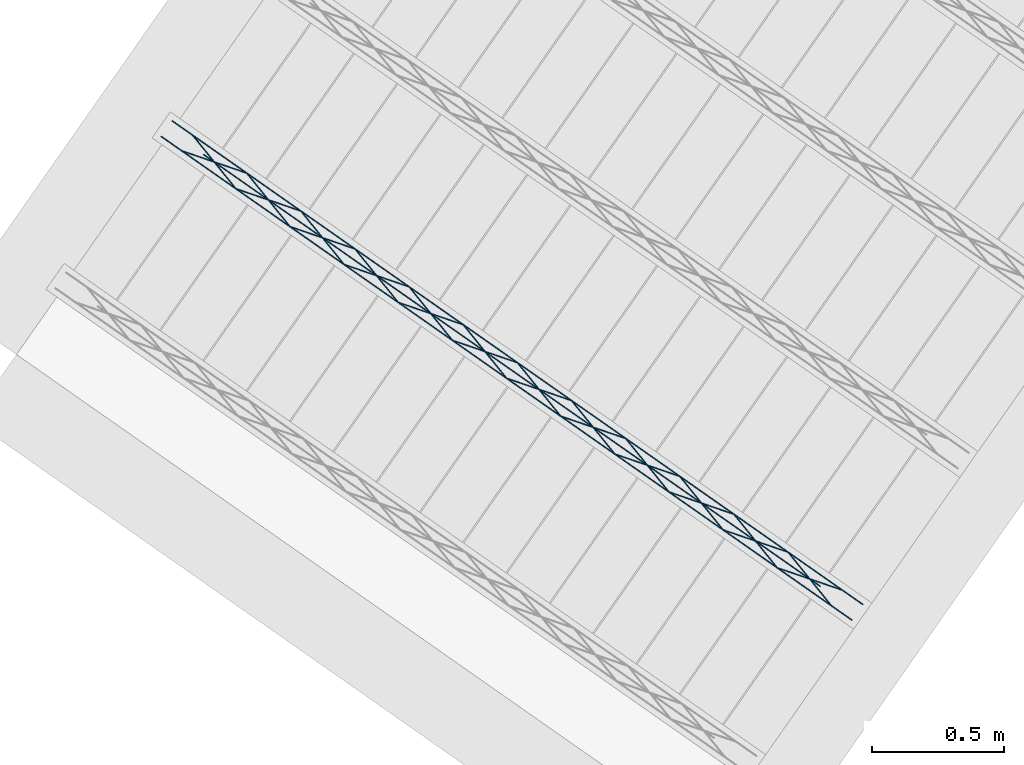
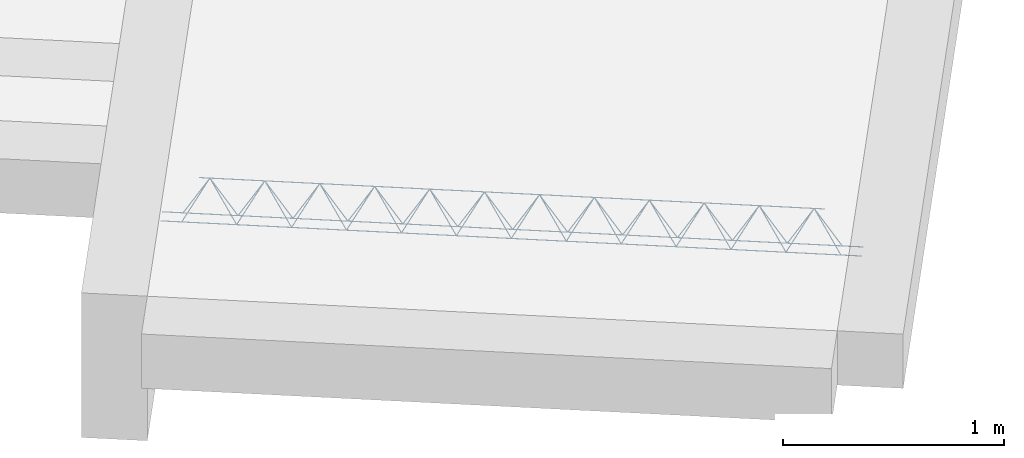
# One storey, part 3 of 46: 1 member.
"""IFC2X3 building model written with IfcOpenShell, lengths in metres."""

from ifc_helpers import new_model, entity, si_unit, converted_unit, derived_unit, direction, frame, origin, origin_2d_with_axis, place, context, subcontext, project, spatial, circle, extrude, type_object, element, save


model = new_model("IFC2X3")

# Units and contexts
model_context = context("Model", 3, precision=1e-05, world=origin(), true_north=direction((6.123031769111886e-17, 1.0)))
body_context = subcontext(model_context, "Body", "Model", "MODEL_VIEW")
ifc_project = project(units=[si_unit("LENGTHUNIT", "METRE"), si_unit("AREAUNIT", "SQUARE_METRE"), si_unit("VOLUMEUNIT", "CUBIC_METRE"), converted_unit("PLANEANGLEUNIT", "DEGREE", entity("IfcPlaneAngleMeasure", 0.017453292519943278), si_unit("PLANEANGLEUNIT", "RADIAN"), dimensions=[0, 0, 0, 0, 0, 0, 0]), si_unit("MASSUNIT", "GRAM", prefix="KILO"), derived_unit("MASSDENSITYUNIT", [(si_unit("MASSUNIT", "GRAM", prefix="KILO"), 1), (si_unit("LENGTHUNIT", "METRE"), -3)]), derived_unit("IONCONCENTRATIONUNIT", [(si_unit("MASSUNIT", "GRAM", prefix="KILO"), 1), (si_unit("LENGTHUNIT", "METRE"), -3)]), derived_unit("MOMENTOFINERTIAUNIT", [(si_unit("LENGTHUNIT", "METRE"), 4)]), si_unit("TIMEUNIT", "SECOND"), si_unit("FREQUENCYUNIT", "HERTZ"), si_unit("THERMODYNAMICTEMPERATUREUNIT", "DEGREE_CELSIUS"), derived_unit("THERMALTRANSMITTANCEUNIT", [(si_unit("MASSUNIT", "GRAM", prefix="KILO"), 1), (si_unit("THERMODYNAMICTEMPERATUREUNIT", "KELVIN"), -1), (si_unit("TIMEUNIT", "SECOND"), -3)]), derived_unit("THERMALCONDUCTANCEUNIT", [(si_unit("MASSUNIT", "GRAM", prefix="KILO"), 1), (si_unit("THERMODYNAMICTEMPERATUREUNIT", "KELVIN"), -1), (si_unit("TIMEUNIT", "SECOND"), -3), (si_unit("LENGTHUNIT", "METRE"), 1)]), derived_unit("VOLUMETRICFLOWRATEUNIT", [(si_unit("LENGTHUNIT", "METRE", prefix="DECI"), 3), (si_unit("TIMEUNIT", "SECOND"), -1)]), derived_unit("MASSFLOWRATEUNIT", [(si_unit("MASSUNIT", "GRAM", prefix="KILO"), 1), (si_unit("TIMEUNIT", "SECOND"), -1)]), derived_unit("ROTATIONALFREQUENCYUNIT", [(si_unit("TIMEUNIT", "SECOND"), -1)]), si_unit("ELECTRICCURRENTUNIT", "AMPERE"), si_unit("ELECTRICVOLTAGEUNIT", "VOLT"), si_unit("POWERUNIT", "WATT"), si_unit("FORCEUNIT", "NEWTON", prefix="KILO"), si_unit("ILLUMINANCEUNIT", "LUX"), si_unit("LUMINOUSFLUXUNIT", "LUMEN"), si_unit("LUMINOUSINTENSITYUNIT", "CANDELA"), si_unit("ENERGYUNIT", "JOULE"), derived_unit("USERDEFINED", [(si_unit("MASSUNIT", "GRAM", prefix="KILO"), -1), (si_unit("LENGTHUNIT", "METRE"), -2), (si_unit("TIMEUNIT", "SECOND"), 3), (si_unit("LUMINOUSFLUXUNIT", "LUMEN"), 1)]), derived_unit("USERDEFINED", [(si_unit("MASSUNIT", "GRAM", prefix="KILO"), 1), (si_unit("TIMEUNIT", "SECOND"), -3), (si_unit("LENGTHUNIT", "METRE"), 3), (si_unit("ELECTRICCURRENTUNIT", "AMPERE"), -2)]), derived_unit("SOUNDPOWERUNIT", [(si_unit("MASSUNIT", "GRAM", prefix="KILO"), 1), (si_unit("TIMEUNIT", "SECOND"), -3), (si_unit("LENGTHUNIT", "METRE"), 2)]), derived_unit("SOUNDPRESSUREUNIT", [(si_unit("MASSUNIT", "GRAM", prefix="KILO"), 1), (si_unit("LENGTHUNIT", "METRE"), -1), (si_unit("TIMEUNIT", "SECOND"), -2)]), derived_unit("LINEARVELOCITYUNIT", [(si_unit("LENGTHUNIT", "METRE"), 1), (si_unit("TIMEUNIT", "SECOND"), -1)]), si_unit("PRESSUREUNIT", "PASCAL"), derived_unit("USERDEFINED", [(si_unit("MASSUNIT", "GRAM", prefix="KILO"), 1), (si_unit("LENGTHUNIT", "METRE"), -2), (si_unit("TIMEUNIT", "SECOND"), -2)]), derived_unit("LINEARFORCEUNIT", [(si_unit("MASSUNIT", "GRAM", prefix="KILO"), 1), (si_unit("TIMEUNIT", "SECOND"), -2)]), derived_unit("PLANARFORCEUNIT", [(si_unit("MASSUNIT", "GRAM", prefix="KILO"), 1), (si_unit("LENGTHUNIT", "METRE"), -1), (si_unit("TIMEUNIT", "SECOND"), -2)]), derived_unit("SPECIFICHEATCAPACITYUNIT", [(si_unit("THERMODYNAMICTEMPERATUREUNIT", "KELVIN"), -1), (si_unit("LENGTHUNIT", "METRE"), 2), (si_unit("TIMEUNIT", "SECOND"), -2)]), derived_unit("HEATFLUXDENSITYUNIT", [(si_unit("MASSUNIT", "GRAM", prefix="KILO"), 1), (si_unit("TIMEUNIT", "SECOND"), -3)]), derived_unit("HEATINGVALUEUNIT", [(si_unit("LENGTHUNIT", "METRE"), 2), (si_unit("TIMEUNIT", "SECOND"), -2)]), derived_unit("VAPORPERMEABILITYUNIT", [(si_unit("LENGTHUNIT", "METRE"), -1), (si_unit("TIMEUNIT", "SECOND"), 1)]), derived_unit("DYNAMICVISCOSITYUNIT", [(si_unit("MASSUNIT", "GRAM", prefix="KILO"), 1), (si_unit("TIMEUNIT", "SECOND"), -1), (si_unit("LENGTHUNIT", "METRE"), -1)]), derived_unit("THERMALEXPANSIONCOEFFICIENTUNIT", [(si_unit("THERMODYNAMICTEMPERATUREUNIT", "KELVIN"), -1)]), derived_unit("MODULUSOFELASTICITYUNIT", [(si_unit("MASSUNIT", "GRAM", prefix="KILO"), 1), (si_unit("LENGTHUNIT", "METRE"), -1), (si_unit("TIMEUNIT", "SECOND"), -2)]), derived_unit("ISOTHERMALMOISTURECAPACITYUNIT", [(si_unit("MASSUNIT", "GRAM", prefix="KILO"), -1), (si_unit("LENGTHUNIT", "METRE"), 3)]), derived_unit("MOISTUREDIFFUSIVITYUNIT", [(si_unit("TIMEUNIT", "SECOND"), -1), (si_unit("LENGTHUNIT", "METRE"), 2)]), derived_unit("MASSPERLENGTHUNIT", [(si_unit("MASSUNIT", "GRAM", prefix="KILO"), 1), (si_unit("LENGTHUNIT", "METRE"), -1)]), derived_unit("THERMALRESISTANCEUNIT", [(si_unit("MASSUNIT", "GRAM", prefix="KILO"), -1), (si_unit("TIMEUNIT", "SECOND"), 3), (si_unit("THERMODYNAMICTEMPERATUREUNIT", "KELVIN"), 1)]), derived_unit("ACCELERATIONUNIT", [(si_unit("LENGTHUNIT", "METRE"), 1), (si_unit("TIMEUNIT", "SECOND"), -2)]), derived_unit("ANGULARVELOCITYUNIT", [(si_unit("TIMEUNIT", "SECOND"), -1), (si_unit("PLANEANGLEUNIT", "RADIAN"), 1)]), derived_unit("LINEARSTIFFNESSUNIT", [(si_unit("MASSUNIT", "GRAM", prefix="KILO"), 1), (si_unit("TIMEUNIT", "SECOND"), -2)]), derived_unit("WARPINGCONSTANTUNIT", [(si_unit("LENGTHUNIT", "METRE"), 6)]), derived_unit("LINEARMOMENTUNIT", [(si_unit("MASSUNIT", "GRAM", prefix="KILO"), 1), (si_unit("LENGTHUNIT", "METRE"), 1), (si_unit("TIMEUNIT", "SECOND"), -2)]), derived_unit("TORQUEUNIT", [(si_unit("MASSUNIT", "GRAM", prefix="KILO"), 1), (si_unit("LENGTHUNIT", "METRE"), 2), (si_unit("TIMEUNIT", "SECOND"), -2)])], contexts=[model_context])

# Site, building, storey
site_placement = place(None, origin())
site = spatial("IfcSite", under=ifc_project, at=site_placement, Name="Default", CompositionType="ELEMENT")
building_placement = place(site_placement, origin())
building = spatial("IfcBuilding", under=site, at=building_placement, CompositionType="ELEMENT")
storey_placement = place(building_placement, frame((0.0, 0.0, 99.52000000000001)))
storey = spatial("IfcBuildingStorey", under=building, at=storey_placement, Name="F1", CompositionType="ELEMENT", Elevation=99.52000000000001)

# Member
member_type = type_object("IfcMemberType", Name="Celosía (Vigueta 2 - Paño 4)", PredefinedType="NOTDEFINED")
member_placement = place(storey_placement, origin())
element("IfcMember", 1, at=member_placement, inside=storey, type_object=member_type, Name="Celosía (Vigueta 2 - Paño 4)", context=body_context, shape_type="SweptSolid", body=[
    extrude(circle(Radius=0.0025, at=origin_2d_with_axis()), frame((4.855933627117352, -3.2606485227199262, 0.22500000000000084), z_axis=(0.8191520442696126, -0.5735764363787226, 0.0), x_axis=(-0.5735764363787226, -0.8191520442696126, 0.0)), (0.0, 0.0, 1.0), 3.191999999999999),
    extrude(circle(Radius=0.0025, at=origin_2d_with_axis()), frame((5.01665737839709, -3.3292406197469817, 0.4500000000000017), z_axis=(0.8191520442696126, -0.5735764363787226, 0.0), x_axis=(-0.5735764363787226, -0.8191520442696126, 0.0)), (0.0, 0.0, 1.0), 2.849999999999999),
    extrude(circle(Radius=0.0025, at=origin_2d_with_axis()), frame((7.3920283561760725, -5.036441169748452, 0.22500000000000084), z_axis=(-0.3145304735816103, 0.389334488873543, 0.8657304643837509), x_axis=(-0.7778747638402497, -0.6284193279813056, 0.0)), (0.0, 0.0, 1.0), 0.2598961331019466),
    extrude(circle(Radius=0.0025, at=origin_2d_with_axis()), frame((7.1872403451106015, -4.893047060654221, 0.22499999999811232), z_axis=(0.47343050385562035, -0.1624017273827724, 0.8657304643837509), x_axis=(-0.3244721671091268, -0.9458952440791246, 0.0)), (0.0, 0.0, 1.0), 0.25989613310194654),
    extrude(circle(Radius=0.0025, at=origin_2d_with_axis()), frame((7.18724034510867, -4.89304706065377, 0.22500000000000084), z_axis=(-0.3145304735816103, 0.389334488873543, 0.8657304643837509), x_axis=(-0.7778747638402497, -0.6284193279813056, 0.0)), (0.0, 0.0, 1.0), 0.2598961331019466),
    extrude(circle(Radius=0.0025, at=origin_2d_with_axis()), frame((6.982452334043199, -4.749652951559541, 0.22499999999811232), z_axis=(0.47343050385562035, -0.1624017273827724, 0.8657304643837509), x_axis=(-0.3244721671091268, -0.9458952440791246, 0.0)), (0.0, 0.0, 1.0), 0.25989613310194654),
    extrude(circle(Radius=0.0025, at=origin_2d_with_axis()), frame((6.982452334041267, -4.7496529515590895, 0.22500000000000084), z_axis=(-0.3145304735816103, 0.389334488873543, 0.8657304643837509), x_axis=(-0.7778747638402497, -0.6284193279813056, 0.0)), (0.0, 0.0, 1.0), 0.2598961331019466),
    extrude(circle(Radius=0.0025, at=origin_2d_with_axis()), frame((6.777664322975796, -4.606258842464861, 0.22499999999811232), z_axis=(0.47343050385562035, -0.1624017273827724, 0.8657304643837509), x_axis=(-0.3244721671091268, -0.9458952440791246, 0.0)), (0.0, 0.0, 1.0), 0.25989613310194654),
    extrude(circle(Radius=0.0025, at=origin_2d_with_axis()), frame((6.7776643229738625, -4.606258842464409, 0.22500000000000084), z_axis=(-0.3145304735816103, 0.389334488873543, 0.8657304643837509), x_axis=(-0.7778747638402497, -0.6284193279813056, 0.0)), (0.0, 0.0, 1.0), 0.2598961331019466),
    extrude(circle(Radius=0.0025, at=origin_2d_with_axis()), frame((6.572876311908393, -4.462864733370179, 0.22499999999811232), z_axis=(0.47343050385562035, -0.1624017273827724, 0.8657304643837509), x_axis=(-0.3244721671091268, -0.9458952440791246, 0.0)), (0.0, 0.0, 1.0), 0.25989613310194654),
    extrude(circle(Radius=0.0025, at=origin_2d_with_axis()), frame((6.57287631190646, -4.462864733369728, 0.22500000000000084), z_axis=(-0.3145304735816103, 0.389334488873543, 0.8657304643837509), x_axis=(-0.7778747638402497, -0.6284193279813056, 0.0)), (0.0, 0.0, 1.0), 0.2598961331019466),
    extrude(circle(Radius=0.0025, at=origin_2d_with_axis()), frame((6.36808830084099, -4.3194706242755, 0.22499999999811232), z_axis=(0.47343050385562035, -0.1624017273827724, 0.8657304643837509), x_axis=(-0.3244721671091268, -0.9458952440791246, 0.0)), (0.0, 0.0, 1.0), 0.25989613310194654),
    extrude(circle(Radius=0.0025, at=origin_2d_with_axis()), frame((6.368088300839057, -4.319470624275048, 0.22500000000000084), z_axis=(-0.3145304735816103, 0.389334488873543, 0.8657304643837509), x_axis=(-0.7778747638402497, -0.6284193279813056, 0.0)), (0.0, 0.0, 1.0), 0.2598961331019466),
    extrude(circle(Radius=0.0025, at=origin_2d_with_axis()), frame((6.163300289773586, -4.176076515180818, 0.22499999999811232), z_axis=(0.47343050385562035, -0.1624017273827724, 0.8657304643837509), x_axis=(-0.3244721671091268, -0.9458952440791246, 0.0)), (0.0, 0.0, 1.0), 0.25989613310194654),
    extrude(circle(Radius=0.0025, at=origin_2d_with_axis()), frame((6.163300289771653, -4.176076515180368, 0.22500000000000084), z_axis=(-0.3145304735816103, 0.389334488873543, 0.8657304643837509), x_axis=(-0.7778747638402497, -0.6284193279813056, 0.0)), (0.0, 0.0, 1.0), 0.2598961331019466),
    extrude(circle(Radius=0.0025, at=origin_2d_with_axis()), frame((5.958512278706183, -4.0326824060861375, 0.22499999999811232), z_axis=(0.47343050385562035, -0.1624017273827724, 0.8657304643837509), x_axis=(-0.3244721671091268, -0.9458952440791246, 0.0)), (0.0, 0.0, 1.0), 0.25989613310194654),
    extrude(circle(Radius=0.0025, at=origin_2d_with_axis()), frame((5.958512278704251, -4.032682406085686, 0.22500000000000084), z_axis=(-0.3145304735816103, 0.389334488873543, 0.8657304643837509), x_axis=(-0.7778747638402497, -0.6284193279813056, 0.0)), (0.0, 0.0, 1.0), 0.2598961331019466),
    extrude(circle(Radius=0.0025, at=origin_2d_with_axis()), frame((5.7537242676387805, -3.8892882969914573, 0.22499999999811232), z_axis=(0.47343050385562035, -0.1624017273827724, 0.8657304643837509), x_axis=(-0.3244721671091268, -0.9458952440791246, 0.0)), (0.0, 0.0, 1.0), 0.25989613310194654),
    extrude(circle(Radius=0.0025, at=origin_2d_with_axis()), frame((5.753724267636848, -3.8892882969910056, 0.22500000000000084), z_axis=(-0.3145304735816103, 0.389334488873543, 0.8657304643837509), x_axis=(-0.7778747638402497, -0.6284193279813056, 0.0)), (0.0, 0.0, 1.0), 0.2598961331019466),
    extrude(circle(Radius=0.0025, at=origin_2d_with_axis()), frame((5.548936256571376, -3.7458941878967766, 0.22499999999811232), z_axis=(0.47343050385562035, -0.1624017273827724, 0.8657304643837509), x_axis=(-0.3244721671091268, -0.9458952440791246, 0.0)), (0.0, 0.0, 1.0), 0.25989613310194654),
    extrude(circle(Radius=0.0025, at=origin_2d_with_axis()), frame((5.548936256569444, -3.7458941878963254, 0.22500000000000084), z_axis=(-0.3145304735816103, 0.389334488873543, 0.8657304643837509), x_axis=(-0.7778747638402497, -0.6284193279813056, 0.0)), (0.0, 0.0, 1.0), 0.2598961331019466),
    extrude(circle(Radius=0.0025, at=origin_2d_with_axis()), frame((5.344148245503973, -3.6025000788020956, 0.22499999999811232), z_axis=(0.47343050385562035, -0.1624017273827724, 0.8657304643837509), x_axis=(-0.3244721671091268, -0.9458952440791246, 0.0)), (0.0, 0.0, 1.0), 0.25989613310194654),
    extrude(circle(Radius=0.0025, at=origin_2d_with_axis()), frame((5.3441482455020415, -3.602500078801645, 0.22500000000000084), z_axis=(-0.3145304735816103, 0.389334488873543, 0.8657304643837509), x_axis=(-0.7778747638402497, -0.6284193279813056, 0.0)), (0.0, 0.0, 1.0), 0.2598961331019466),
    extrude(circle(Radius=0.0025, at=origin_2d_with_axis()), frame((5.1393602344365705, -3.4591059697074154, 0.22499999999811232), z_axis=(0.47343050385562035, -0.1624017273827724, 0.8657304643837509), x_axis=(-0.3244721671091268, -0.9458952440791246, 0.0)), (0.0, 0.0, 1.0), 0.25989613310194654),
    extrude(circle(Radius=0.0025, at=origin_2d_with_axis()), frame((5.139360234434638, -3.4591059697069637, 0.22500000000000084), z_axis=(-0.3145304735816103, 0.389334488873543, 0.8657304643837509), x_axis=(-0.7778747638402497, -0.6284193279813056, 0.0)), (0.0, 0.0, 1.0), 0.2598961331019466),
    extrude(circle(Radius=0.0025, at=origin_2d_with_axis()), frame((4.934572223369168, -3.315711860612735, 0.22499999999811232), z_axis=(0.47343050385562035, -0.1624017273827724, 0.8657304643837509), x_axis=(-0.3244721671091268, -0.9458952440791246, 0.0)), (0.0, 0.0, 1.0), 0.25989613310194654),
    extrude(circle(Radius=0.0025, at=origin_2d_with_axis()), frame((4.897231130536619, -3.201669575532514, 0.22500000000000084), z_axis=(0.8191520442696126, -0.5735764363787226, 0.0), x_axis=(-0.5735764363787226, -0.8191520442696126, 0.0)), (0.0, 0.0, 1.0), 3.191999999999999),
    extrude(circle(Radius=0.0025, at=origin_2d_with_axis()), frame((7.433325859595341, -4.97746222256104, 0.22500000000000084), z_axis=(-0.47343050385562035, 0.1624017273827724, 0.8657304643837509), x_axis=(-0.3244721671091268, -0.9458952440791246, 0.0)), (0.0, 0.0, 1.0), 0.25989613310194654),
    extrude(circle(Radius=0.0025, at=origin_2d_with_axis()), frame((7.228537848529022, -4.83406811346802, 0.22499999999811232), z_axis=(0.3145304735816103, -0.389334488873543, 0.8657304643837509), x_axis=(-0.7778747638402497, -0.6284193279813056, 0.0)), (0.0, 0.0, 1.0), 0.2598961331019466),
    extrude(circle(Radius=0.0025, at=origin_2d_with_axis()), frame((7.228537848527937, -4.834068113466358, 0.22500000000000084), z_axis=(-0.47343050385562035, 0.1624017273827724, 0.8657304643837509), x_axis=(-0.3244721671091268, -0.9458952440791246, 0.0)), (0.0, 0.0, 1.0), 0.25989613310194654),
    extrude(circle(Radius=0.0025, at=origin_2d_with_axis()), frame((7.02374983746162, -4.690674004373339, 0.22499999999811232), z_axis=(0.3145304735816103, -0.389334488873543, 0.8657304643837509), x_axis=(-0.7778747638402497, -0.6284193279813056, 0.0)), (0.0, 0.0, 1.0), 0.2598961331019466),
    extrude(circle(Radius=0.0025, at=origin_2d_with_axis()), frame((7.023749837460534, -4.690674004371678, 0.22500000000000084), z_axis=(-0.47343050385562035, 0.1624017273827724, 0.8657304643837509), x_axis=(-0.3244721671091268, -0.9458952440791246, 0.0)), (0.0, 0.0, 1.0), 0.25989613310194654),
    extrude(circle(Radius=0.0025, at=origin_2d_with_axis()), frame((6.818961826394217, -4.547279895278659, 0.22499999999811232), z_axis=(0.3145304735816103, -0.389334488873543, 0.8657304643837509), x_axis=(-0.7778747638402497, -0.6284193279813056, 0.0)), (0.0, 0.0, 1.0), 0.2598961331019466),
    extrude(circle(Radius=0.0025, at=origin_2d_with_axis()), frame((6.818961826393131, -4.547279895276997, 0.22500000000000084), z_axis=(-0.47343050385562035, 0.1624017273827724, 0.8657304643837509), x_axis=(-0.3244721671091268, -0.9458952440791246, 0.0)), (0.0, 0.0, 1.0), 0.25989613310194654),
    extrude(circle(Radius=0.0025, at=origin_2d_with_axis()), frame((6.614173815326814, -4.403885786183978, 0.22499999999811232), z_axis=(0.3145304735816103, -0.389334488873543, 0.8657304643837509), x_axis=(-0.7778747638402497, -0.6284193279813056, 0.0)), (0.0, 0.0, 1.0), 0.2598961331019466),
    extrude(circle(Radius=0.0025, at=origin_2d_with_axis()), frame((6.614173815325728, -4.403885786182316, 0.22500000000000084), z_axis=(-0.47343050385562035, 0.1624017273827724, 0.8657304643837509), x_axis=(-0.3244721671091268, -0.9458952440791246, 0.0)), (0.0, 0.0, 1.0), 0.25989613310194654),
    extrude(circle(Radius=0.0025, at=origin_2d_with_axis()), frame((6.4093858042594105, -4.2604916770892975, 0.22499999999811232), z_axis=(0.3145304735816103, -0.389334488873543, 0.8657304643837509), x_axis=(-0.7778747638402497, -0.6284193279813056, 0.0)), (0.0, 0.0, 1.0), 0.2598961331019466),
    extrude(circle(Radius=0.0025, at=origin_2d_with_axis()), frame((6.409385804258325, -4.260491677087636, 0.22500000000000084), z_axis=(-0.47343050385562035, 0.1624017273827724, 0.8657304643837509), x_axis=(-0.3244721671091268, -0.9458952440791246, 0.0)), (0.0, 0.0, 1.0), 0.25989613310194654),
    extrude(circle(Radius=0.0025, at=origin_2d_with_axis()), frame((6.204597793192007, -4.117097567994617, 0.22499999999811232), z_axis=(0.3145304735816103, -0.389334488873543, 0.8657304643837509), x_axis=(-0.7778747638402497, -0.6284193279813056, 0.0)), (0.0, 0.0, 1.0), 0.2598961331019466),
    extrude(circle(Radius=0.0025, at=origin_2d_with_axis()), frame((6.204597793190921, -4.117097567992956, 0.22500000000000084), z_axis=(-0.47343050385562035, 0.1624017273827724, 0.8657304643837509), x_axis=(-0.3244721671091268, -0.9458952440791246, 0.0)), (0.0, 0.0, 1.0), 0.25989613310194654),
    extrude(circle(Radius=0.0025, at=origin_2d_with_axis()), frame((5.999809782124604, -3.973703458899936, 0.22499999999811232), z_axis=(0.3145304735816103, -0.389334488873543, 0.8657304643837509), x_axis=(-0.7778747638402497, -0.6284193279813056, 0.0)), (0.0, 0.0, 1.0), 0.2598961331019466),
    extrude(circle(Radius=0.0025, at=origin_2d_with_axis()), frame((5.999809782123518, -3.973703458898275, 0.22500000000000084), z_axis=(-0.47343050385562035, 0.1624017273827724, 0.8657304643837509), x_axis=(-0.3244721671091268, -0.9458952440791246, 0.0)), (0.0, 0.0, 1.0), 0.25989613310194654),
    extrude(circle(Radius=0.0025, at=origin_2d_with_axis()), frame((5.795021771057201, -3.8303093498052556, 0.22499999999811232), z_axis=(0.3145304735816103, -0.389334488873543, 0.8657304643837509), x_axis=(-0.7778747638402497, -0.6284193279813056, 0.0)), (0.0, 0.0, 1.0), 0.2598961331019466),
    extrude(circle(Radius=0.0025, at=origin_2d_with_axis()), frame((5.795021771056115, -3.830309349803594, 0.22500000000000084), z_axis=(-0.47343050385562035, 0.1624017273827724, 0.8657304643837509), x_axis=(-0.3244721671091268, -0.9458952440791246, 0.0)), (0.0, 0.0, 1.0), 0.25989613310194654),
    extrude(circle(Radius=0.0025, at=origin_2d_with_axis()), frame((5.590233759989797, -3.6869152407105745, 0.22499999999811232), z_axis=(0.3145304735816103, -0.389334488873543, 0.8657304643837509), x_axis=(-0.7778747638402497, -0.6284193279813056, 0.0)), (0.0, 0.0, 1.0), 0.2598961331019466),
    extrude(circle(Radius=0.0025, at=origin_2d_with_axis()), frame((5.590233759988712, -3.6869152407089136, 0.22500000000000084), z_axis=(-0.47343050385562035, 0.1624017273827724, 0.8657304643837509), x_axis=(-0.3244721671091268, -0.9458952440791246, 0.0)), (0.0, 0.0, 1.0), 0.25989613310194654),
    extrude(circle(Radius=0.0025, at=origin_2d_with_axis()), frame((5.385445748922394, -3.543521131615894, 0.22499999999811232), z_axis=(0.3145304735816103, -0.389334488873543, 0.8657304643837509), x_axis=(-0.7778747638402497, -0.6284193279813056, 0.0)), (0.0, 0.0, 1.0), 0.2598961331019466),
    extrude(circle(Radius=0.0025, at=origin_2d_with_axis()), frame((5.38544574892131, -3.5435211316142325, 0.22500000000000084), z_axis=(-0.47343050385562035, 0.1624017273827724, 0.8657304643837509), x_axis=(-0.3244721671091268, -0.9458952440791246, 0.0)), (0.0, 0.0, 1.0), 0.25989613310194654),
    extrude(circle(Radius=0.0025, at=origin_2d_with_axis()), frame((5.180657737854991, -3.4001270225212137, 0.22499999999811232), z_axis=(0.3145304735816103, -0.389334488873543, 0.8657304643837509), x_axis=(-0.7778747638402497, -0.6284193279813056, 0.0)), (0.0, 0.0, 1.0), 0.2598961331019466),
    extrude(circle(Radius=0.0025, at=origin_2d_with_axis()), frame((5.180657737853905, -3.400127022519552, 0.22500000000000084), z_axis=(-0.47343050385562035, 0.1624017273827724, 0.8657304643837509), x_axis=(-0.3244721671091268, -0.9458952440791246, 0.0)), (0.0, 0.0, 1.0), 0.25989613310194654),
    extrude(circle(Radius=0.0025, at=origin_2d_with_axis()), frame((4.975869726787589, -3.256732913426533, 0.22499999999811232), z_axis=(0.3145304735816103, -0.389334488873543, 0.8657304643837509), x_axis=(-0.7778747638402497, -0.6284193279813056, 0.0)), (0.0, 0.0, 1.0), 0.2598961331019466),
])

save(model, "model.ifc")
